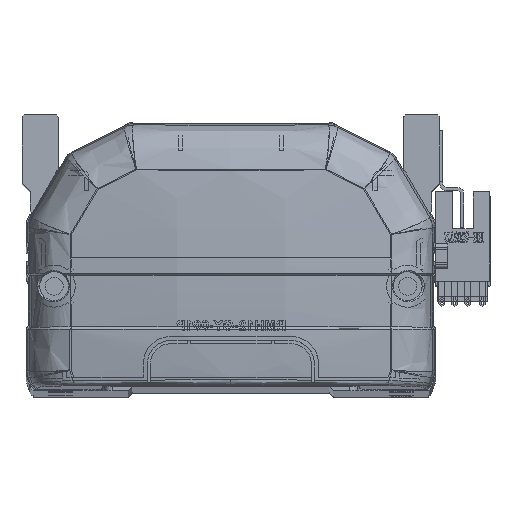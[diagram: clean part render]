
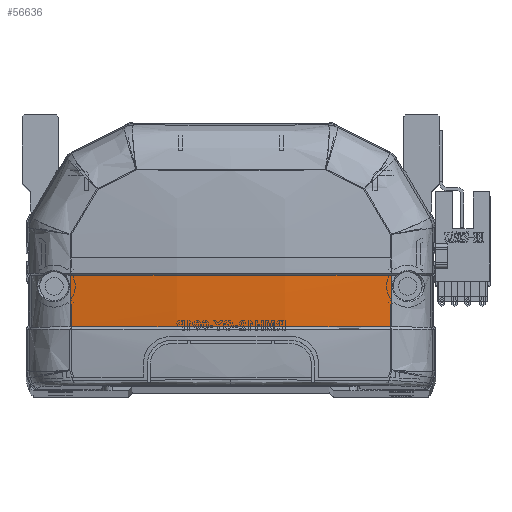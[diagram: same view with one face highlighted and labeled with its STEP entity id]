
A CAD part, top view. The second image highlights one B-rep face of the part: STEP entity #56636.
In plain terms, the highlighted free-form (B-spline) face has degree [3, 3] with [4, 4] control points.
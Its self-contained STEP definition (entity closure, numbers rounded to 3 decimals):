
#573 = B_SPLINE_CURVE_WITH_KNOTS ( 'NONE', 3,
 ( #36952, #41531, #1438, #6007, #37923, #10610, #1237, #53085, #54678, #11388 ),
 .UNSPECIFIED., .F., .F.,
 ( 4, 2, 2, 2, 4 ),
 ( 0., 0.04, 0.06, 0.07, 0.08 ),
 .UNSPECIFIED. ) ;
#1237 = CARTESIAN_POINT ( 'NONE',  ( -26.721, 15.83, -7.624 ) ) ;
#1438 = CARTESIAN_POINT ( 'NONE',  ( 13.38, 15.83, -8.984 ) ) ;
#2060 = CARTESIAN_POINT ( 'NONE',  ( -39.963, 28.706, -6.372 ) ) ;
#4631 = ORIENTED_EDGE ( 'NONE', *, *, #47347, .F. ) ;
#5331 = ORIENTED_EDGE ( 'NONE', *, *, #48593, .T. ) ;
#6007 = CARTESIAN_POINT ( 'NONE',  ( -6.692, 15.83, -8.984 ) ) ;
#6220 = CARTESIAN_POINT ( 'NONE',  ( 13.598, 24.342, -10.47 ) ) ;
#6411 = CARTESIAN_POINT ( 'NONE',  ( -13.598, 19.918, -10.302 ) ) ;
#7655 = ORIENTED_EDGE ( 'NONE', *, *, #18333, .T. ) ;
#9099 = CARTESIAN_POINT ( 'NONE',  ( 39.973, 20.12, -6.142 ) ) ;
#9335 = CARTESIAN_POINT ( 'NONE',  ( 39.985, 15.83, -5.879 ) ) ;
#10228 = B_SPLINE_CURVE_WITH_KNOTS ( 'NONE', 3,
 ( #16437, #52866, #57452, #30173, #44905, #35344 ),
 .UNSPECIFIED., .F., .F.,
 ( 4, 2, 4 ),
 ( 0., 0.5, 1. ),
 .UNSPECIFIED. ) ;
#10421 = CARTESIAN_POINT ( 'NONE',  ( 13.598, 15.499, -10.032 ) ) ;
#10610 = CARTESIAN_POINT ( 'NONE',  ( -23.389, 15.83, -7.947 ) ) ;
#10621 = CARTESIAN_POINT ( 'NONE',  ( -13.598, 24.342, -10.47 ) ) ;
#11015 = CARTESIAN_POINT ( 'NONE',  ( 40.461, 15.757, -5.8 ) ) ;
#11212 = CARTESIAN_POINT ( 'NONE',  ( -13.598, 28.769, -10.535 ) ) ;
#11388 = CARTESIAN_POINT ( 'NONE',  ( -39.985, 15.83, -5.879 ) ) ;
#12302 = VERTEX_POINT ( 'NONE', #37184 ) ;
#13726 = CARTESIAN_POINT ( 'NONE',  ( 39.966, 24.413, -6.306 ) ) ;
#15238 = CARTESIAN_POINT ( 'NONE',  ( 39.963, 28.706, -6.372 ) ) ;
#15415 = CARTESIAN_POINT ( 'NONE',  ( 40.461, 28.832, -6.296 ) ) ;
#16437 = CARTESIAN_POINT ( 'NONE',  ( -39.963, 28.706, -6.372 ) ) ;
#18333 = EDGE_CURVE ( 'NONE', #35761, #48600, #35642, .T. ) ;
#19581 = CARTESIAN_POINT ( 'NONE',  ( 13.598, 28.769, -10.535 ) ) ;
#19775 = CARTESIAN_POINT ( 'NONE',  ( -40.461, 20.111, -6.066 ) ) ;
#21924 = EDGE_CURVE ( 'NONE', #35761, #12302, #573, .T. ) ;
#22970 = VERTEX_POINT ( 'NONE', #40419 ) ;
#23978 = CARTESIAN_POINT ( 'NONE',  ( -40.461, 24.47, -6.231 ) ) ;
#24017 = CARTESIAN_POINT ( 'NONE',  ( -39.985, 15.83, -5.879 ) ) ;
#24760 = CARTESIAN_POINT ( 'NONE',  ( -40.461, 15.757, -5.8 ) ) ;
#24971 = ORIENTED_EDGE ( 'NONE', *, *, #21924, .F. ) ;
#30173 = CARTESIAN_POINT ( 'NONE',  ( 13.375, 28.707, -9.468 ) ) ;
#33194 = CARTESIAN_POINT ( 'NONE',  ( -39.966, 24.412, -6.306 ) ) ;
#35344 = CARTESIAN_POINT ( 'NONE',  ( 39.963, 28.706, -6.372 ) ) ;
#35642 = B_SPLINE_CURVE_WITH_KNOTS ( 'NONE', 3,
 ( #54554, #9099, #13726, #59138 ),
 .UNSPECIFIED., .F., .F.,
 ( 4, 4 ),
 ( 0., 1. ),
 .UNSPECIFIED. ) ;
#35761 = VERTEX_POINT ( 'NONE', #9335 ) ;
#36952 = CARTESIAN_POINT ( 'NONE',  ( 39.985, 15.83, -5.879 ) ) ;
#37184 = CARTESIAN_POINT ( 'NONE',  ( -39.985, 15.83, -5.879 ) ) ;
#37923 = CARTESIAN_POINT ( 'NONE',  ( -13.384, 15.83, -8.724 ) ) ;
#39107 =( BOUNDED_SURFACE ( )  B_SPLINE_SURFACE ( 3, 3, ( 
 ( #11015, #51653, #51271, #15415 ),
 ( #10421, #47223, #6220, #19581 ),
 ( #42685, #6411, #10621, #11212 ),
 ( #24760, #19775, #23978, #55864 ) ),
 .UNSPECIFIED., .F., .F., .F. ) 
 B_SPLINE_SURFACE_WITH_KNOTS ( ( 4, 4 ),
 ( 4, 4 ),
 ( 0., 1. ),
 ( 0., 1. ),
 .UNSPECIFIED. ) 
 GEOMETRIC_REPRESENTATION_ITEM ( )  RATIONAL_B_SPLINE_SURFACE ( (
 ( 1., 1., 1., 1.),
 ( 0.992, 0.992, 0.992, 0.992),
 ( 0.992, 0.992, 0.992, 0.992),
 ( 1., 1., 1., 1.) ) ) 
 REPRESENTATION_ITEM ( '' )  SURFACE ( )  );
#40419 = CARTESIAN_POINT ( 'NONE',  ( -39.963, 28.706, -6.372 ) ) ;
#41531 = CARTESIAN_POINT ( 'NONE',  ( 26.761, 15.83, -7.945 ) ) ;
#41887 = FACE_OUTER_BOUND ( 'NONE', #46280, .T. ) ;
#42521 = CARTESIAN_POINT ( 'NONE',  ( -39.973, 20.118, -6.142 ) ) ;
#42685 = CARTESIAN_POINT ( 'NONE',  ( -13.598, 15.499, -10.032 ) ) ;
#44905 = CARTESIAN_POINT ( 'NONE',  ( 26.749, 28.706, -8.432 ) ) ;
#46280 = EDGE_LOOP ( 'NONE', ( #7655, #4631, #5331, #24971 ) ) ;
#47223 = CARTESIAN_POINT ( 'NONE',  ( 13.598, 19.918, -10.302 ) ) ;
#47347 = EDGE_CURVE ( 'NONE', #22970, #48600, #10228, .T. ) ;
#48593 = EDGE_CURVE ( 'NONE', #22970, #12302, #54279, .T. ) ;
#48600 = VERTEX_POINT ( 'NONE', #15238 ) ;
#51271 = CARTESIAN_POINT ( 'NONE',  ( 40.461, 24.47, -6.231 ) ) ;
#51653 = CARTESIAN_POINT ( 'NONE',  ( 40.461, 20.111, -6.066 ) ) ;
#52866 = CARTESIAN_POINT ( 'NONE',  ( -26.748, 28.706, -8.432 ) ) ;
#53085 = CARTESIAN_POINT ( 'NONE',  ( -33.365, 15.83, -6.848 ) ) ;
#54279 = B_SPLINE_CURVE_WITH_KNOTS ( 'NONE', 3,
 ( #2060, #33194, #42521, #24017 ),
 .UNSPECIFIED., .F., .F.,
 ( 4, 4 ),
 ( 0., 1. ),
 .UNSPECIFIED. ) ;
#54554 = CARTESIAN_POINT ( 'NONE',  ( 39.985, 15.83, -5.879 ) ) ;
#54678 = CARTESIAN_POINT ( 'NONE',  ( -36.679, 15.83, -6.395 ) ) ;
#55864 = CARTESIAN_POINT ( 'NONE',  ( -40.461, 28.832, -6.296 ) ) ;
#56636 = ADVANCED_FACE ( 'NONE', ( #41887 ), #39107, .F. ) ;
#57452 = CARTESIAN_POINT ( 'NONE',  ( -13.373, 28.707, -9.468 ) ) ;
#59138 = CARTESIAN_POINT ( 'NONE',  ( 39.963, 28.706, -6.372 ) ) ;
